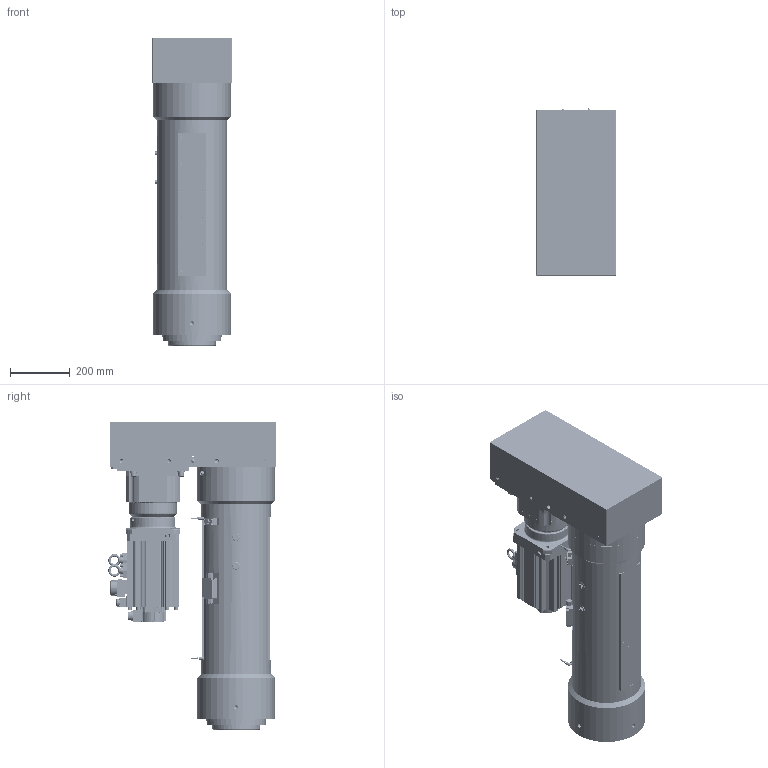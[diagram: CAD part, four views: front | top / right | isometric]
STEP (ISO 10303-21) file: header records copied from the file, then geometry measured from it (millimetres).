
FILE_DESCRIPTION(/* description */ (''),/* implementation_level */ '2;1');
FILE_NAME(/* name */ 'Z:\07.Product\01.Design\3D\1.P-All\OAICS-P\0000.Assembly\OACIS-P300-400-080-A6V200.stp',/* time_stamp */ '2023-06-26T09:25:59+09:00',/* author */ ('magic'),/* organization */ (''),/* preprocessor_version */ 'ST-DEVELOPER v17',/* originating_system */ 'Autodesk Inventor 2019',/* authorisation */ '');
FILE_SCHEMA (('AUTOMOTIVE_DESIGN { 1 0 10303 214 3 1 1 }'));
Products named in the file (1): OACIS-P300-400-080-A6V200
Bounding box: 267.44 x 562.5 x 1033 mm (x, y, z)
Volume: 48107217.9 mm3; surface area: 4114323.4 mm2
Topology: 1 solids, 12 shells, 4382 faces, 12240 edges, 8013 vertices
Faces by surface type: plane 2004, cylinder 1685, cone 375, torus 139, bspline 121, sphere 58
Full cylindrical faces by diameter (mm): 1 x6, 3 x1, 3.242 x6, 4.134 x12, 4.5 x6, 4.917 x8, 5 x2, 5.5 x4, 5.6 x5, 5.8 x2, 6 x4, 6.647 x9, 6.7 x2, 7 x8, 7.2 x2, 7.24 x2, 7.8 x2, 8 x15, 8.5 x12, 9 x2, 9.5 x10, 9.6 x1, 10 x17, 10.106 x20, 10.2 x4, 10.917 x1, 11 x14, 11.5 x2, 12 x10, 13 x24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
Entity records: 157807 total; most frequent: CARTESIAN_POINT 39203, DIRECTION 24924, ORIENTED_EDGE 24125, EDGE_CURVE 12079, AXIS2_PLACEMENT_3D 9295, VERTEX_POINT 8013, LINE 6334, VECTOR 6334
